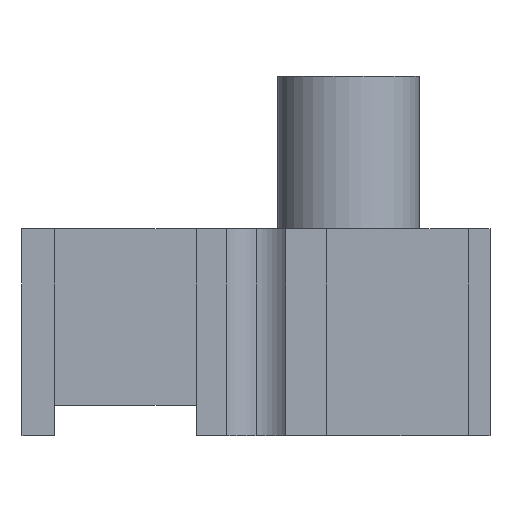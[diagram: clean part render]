
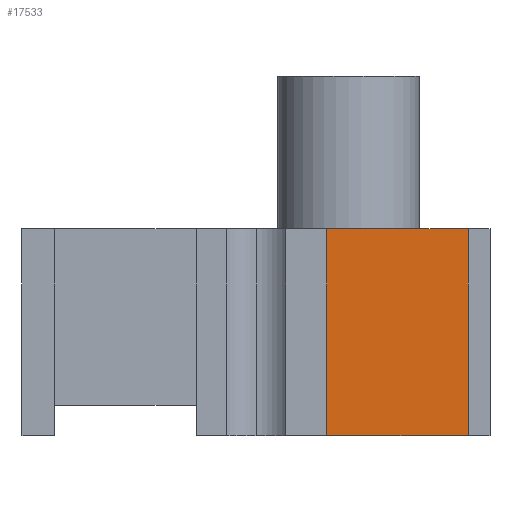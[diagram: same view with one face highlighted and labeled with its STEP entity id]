
A CAD part, left-side view. The second image highlights one B-rep face of the part: STEP entity #17533.
In plain terms, the highlighted planar face has unit normal (-1, 0, 0).
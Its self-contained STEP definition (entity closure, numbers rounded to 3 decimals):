
#35=AXIS2_PLACEMENT_3D('Plane Axis2P3D',#32,#33,#34) ;
#32=CARTESIAN_POINT('Axis2P3D Location',(-3.25,-6.5,-6.6)) ;
#3241=CARTESIAN_POINT('Vertex',(-3.25,0.,1.5)) ;
#17155=CARTESIAN_POINT('Line Origine',(-3.25,-2.75,1.5)) ;
#17159=CARTESIAN_POINT('Vertex',(-3.25,-5.5,1.5)) ;
#17246=CARTESIAN_POINT('Vertex',(-3.25,1.,1.5)) ;
#17249=CARTESIAN_POINT('Line Origine',(-3.25,0.5,1.5)) ;
#17420=CARTESIAN_POINT('Vertex',(-3.25,-5.5,-8.)) ;
#17423=CARTESIAN_POINT('Line Origine',(-3.25,-2.25,-8.)) ;
#17427=CARTESIAN_POINT('Vertex',(-3.25,1.,-8.)) ;
#17509=CARTESIAN_POINT('Line Origine',(-3.25,1.,-3.25)) ;
#17521=CARTESIAN_POINT('Line Origine',(-3.25,-5.5,-3.25)) ;
#33=DIRECTION('Axis2P3D Direction',(-1.,0.,0.)) ;
#34=DIRECTION('Axis2P3D XDirection',(0.,1.,0.)) ;
#17156=DIRECTION('Vector Direction',(0.,1.,0.)) ;
#17250=DIRECTION('Vector Direction',(0.,1.,0.)) ;
#17424=DIRECTION('Vector Direction',(0.,1.,0.)) ;
#17510=DIRECTION('Vector Direction',(0.,0.,-1.)) ;
#17522=DIRECTION('Vector Direction',(0.,0.,-1.)) ;
#17157=VECTOR('Line Direction',#17156,1.) ;
#17251=VECTOR('Line Direction',#17250,1.) ;
#17425=VECTOR('Line Direction',#17424,1.) ;
#17511=VECTOR('Line Direction',#17510,1.) ;
#17523=VECTOR('Line Direction',#17522,1.) ;
#17527=ORIENTED_EDGE('',*,*,#17525,.F.) ;
#17528=ORIENTED_EDGE('',*,*,#17161,.T.) ;
#17529=ORIENTED_EDGE('',*,*,#17253,.T.) ;
#17530=ORIENTED_EDGE('',*,*,#17513,.T.) ;
#17531=ORIENTED_EDGE('',*,*,#17429,.F.) ;
#17533=ADVANCED_FACE('Solid',(#17532),#36,.T.) ;
#17161=EDGE_CURVE('',#17160,#3242,#17158,.T.) ;
#17253=EDGE_CURVE('',#3242,#17247,#17252,.T.) ;
#17429=EDGE_CURVE('',#17421,#17428,#17426,.T.) ;
#17513=EDGE_CURVE('',#17247,#17428,#17512,.T.) ;
#17525=EDGE_CURVE('',#17160,#17421,#17524,.T.) ;
#17526=EDGE_LOOP('',(#17527,#17528,#17529,#17530,#17531)) ;
#17532=FACE_OUTER_BOUND('',#17526,.T.) ;
#17158=LINE('Line',#17155,#17157) ;
#17252=LINE('Line',#17249,#17251) ;
#17426=LINE('Line',#17423,#17425) ;
#17512=LINE('Line',#17509,#17511) ;
#17524=LINE('Line',#17521,#17523) ;
#36=PLANE('',#35) ;
#3242=VERTEX_POINT('',#3241) ;
#17160=VERTEX_POINT('',#17159) ;
#17247=VERTEX_POINT('',#17246) ;
#17421=VERTEX_POINT('',#17420) ;
#17428=VERTEX_POINT('',#17427) ;
